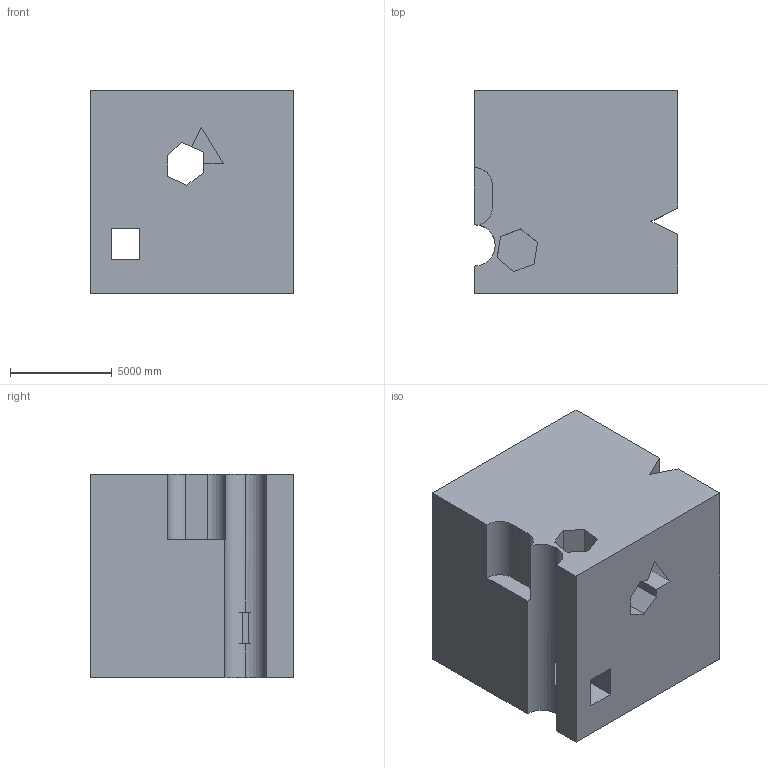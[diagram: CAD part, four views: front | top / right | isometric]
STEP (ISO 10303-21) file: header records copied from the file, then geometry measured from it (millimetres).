
FILE_DESCRIPTION (( 'STEP AP203' ), '1' );
FILE_NAME ('767.STEP', '2022-08-04T15:50:08', ( 'user' ), ( '' ), 'SwSTEP 2.0', 'SolidWorks 2021', '' );
FILE_SCHEMA (( 'CONFIG_CONTROL_DESIGN' ));
Length unit declared in the file: centimetre
Products named in the file (1): 767
Bounding box: 10000 x 10000 x 10000 mm (x, y, z)
Volume: 893291480379.1 mm3; surface area: 791476380.4 mm2
Topology: 1 solids, 1 shells, 45 faces, 129 edges, 86 vertices
Faces by surface type: plane 41, cylinder 4
Entity records: 1545 total; most frequent: CARTESIAN_POINT 261, ORIENTED_EDGE 258, DIRECTION 234, EDGE_CURVE 129, LINE 116, VECTOR 116, VERTEX_POINT 86, AXIS2_PLACEMENT_3D 59
